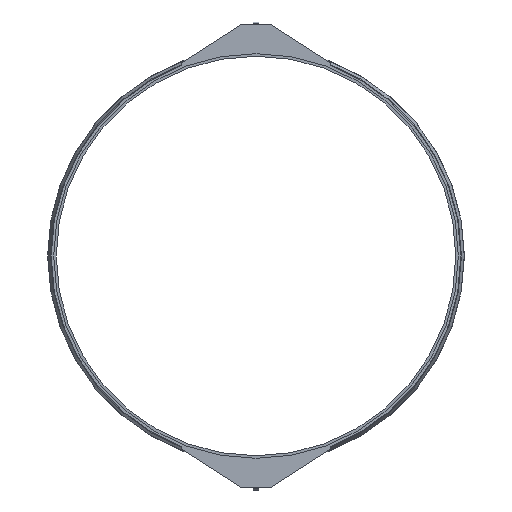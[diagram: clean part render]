
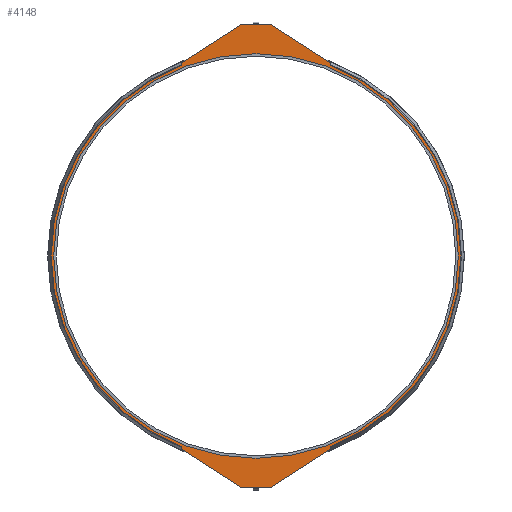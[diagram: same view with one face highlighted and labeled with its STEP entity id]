
A CAD part, left-side view. The second image highlights one B-rep face of the part: STEP entity #4148.
In plain terms, the highlighted planar face has unit normal (-1, 0, 0).
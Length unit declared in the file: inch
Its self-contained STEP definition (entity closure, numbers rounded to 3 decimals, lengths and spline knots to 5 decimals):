
#126=FACE_BOUND('',#718,.T.);
#268=PLANE('',#4523);
#479=FACE_OUTER_BOUND('',#717,.T.);
#717=EDGE_LOOP('',(#3664,#3665,#3666,#3667,#3668,#3669,#3670,#3671,#3672,
#3673,#3674,#3675,#3676,#3677,#3678,#3679,#3680,#3681,#3682,#3683));
#718=EDGE_LOOP('',(#3684,#3685));
#846=LINE('',#5992,#1235);
#849=LINE('',#6000,#1238);
#853=LINE('',#6009,#1242);
#856=LINE('',#6017,#1245);
#857=LINE('',#6020,#1246);
#1049=LINE('',#6769,#1438);
#1053=LINE('',#6778,#1442);
#1056=LINE('',#6786,#1445);
#1059=LINE('',#6793,#1448);
#1061=LINE('',#6797,#1450);
#1235=VECTOR('',#4846,0.3937);
#1238=VECTOR('',#4855,0.3937);
#1242=VECTOR('',#4865,0.3937);
#1245=VECTOR('',#4874,0.3937);
#1246=VECTOR('',#4877,0.3937);
#1438=VECTOR('',#5381,0.3937);
#1442=VECTOR('',#5391,0.3937);
#1445=VECTOR('',#5400,0.3937);
#1448=VECTOR('',#5409,0.3937);
#1450=VECTOR('',#5413,0.3937);
#1524=CIRCLE('',#4257,0.063);
#1525=CIRCLE('',#4260,0.125);
#1526=CIRCLE('',#4263,0.125);
#1527=CIRCLE('',#4266,0.063);
#1530=CIRCLE('',#4272,30.375);
#1583=CIRCLE('',#4423,0.063);
#1584=CIRCLE('',#4426,0.125);
#1585=CIRCLE('',#4429,0.125);
#1586=CIRCLE('',#4432,0.063);
#1596=CIRCLE('',#4463,30.375);
#1639=CIRCLE('',#4521,30.);
#1640=CIRCLE('',#4522,30.);
#1748=VERTEX_POINT('',#5984);
#1749=VERTEX_POINT('',#5986);
#1750=VERTEX_POINT('',#5990);
#1751=VERTEX_POINT('',#5994);
#1752=VERTEX_POINT('',#5998);
#1753=VERTEX_POINT('',#6003);
#1754=VERTEX_POINT('',#6007);
#1755=VERTEX_POINT('',#6011);
#1756=VERTEX_POINT('',#6015);
#1757=VERTEX_POINT('',#6019);
#1762=VERTEX_POINT('',#6031);
#1940=VERTEX_POINT('',#6762);
#1941=VERTEX_POINT('',#6764);
#1942=VERTEX_POINT('',#6768);
#1943=VERTEX_POINT('',#6772);
#1944=VERTEX_POINT('',#6777);
#1945=VERTEX_POINT('',#6781);
#1946=VERTEX_POINT('',#6785);
#1947=VERTEX_POINT('',#6789);
#1948=VERTEX_POINT('',#6795);
#2013=VERTEX_POINT('',#6993);
#2014=VERTEX_POINT('',#6995);
#2167=EDGE_CURVE('',#1748,#1749,#1524,.T.);
#2170=EDGE_CURVE('',#1750,#1748,#846,.T.);
#2172=EDGE_CURVE('',#1751,#1750,#1525,.T.);
#2174=EDGE_CURVE('',#1752,#1751,#849,.T.);
#2177=EDGE_CURVE('',#1753,#1752,#1526,.T.);
#2179=EDGE_CURVE('',#1754,#1753,#853,.T.);
#2181=EDGE_CURVE('',#1755,#1754,#1527,.T.);
#2183=EDGE_CURVE('',#1756,#1755,#856,.T.);
#2184=EDGE_CURVE('',#1749,#1757,#857,.T.);
#2191=EDGE_CURVE('',#1762,#1756,#1530,.T.);
#2454=EDGE_CURVE('',#1941,#1940,#1583,.T.);
#2456=EDGE_CURVE('',#1942,#1941,#1049,.T.);
#2458=EDGE_CURVE('',#1943,#1942,#1584,.T.);
#2461=EDGE_CURVE('',#1944,#1943,#1053,.T.);
#2463=EDGE_CURVE('',#1945,#1944,#1585,.T.);
#2465=EDGE_CURVE('',#1946,#1945,#1056,.T.);
#2467=EDGE_CURVE('',#1947,#1946,#1586,.T.);
#2469=EDGE_CURVE('',#1762,#1947,#1059,.T.);
#2471=EDGE_CURVE('',#1940,#1948,#1061,.T.);
#2520=EDGE_CURVE('',#1757,#1948,#1596,.T.);
#2570=EDGE_CURVE('',#2014,#2013,#1639,.T.);
#2571=EDGE_CURVE('',#2013,#2014,#1640,.T.);
#3664=ORIENTED_EDGE('',*,*,#2191,.F.);
#3665=ORIENTED_EDGE('',*,*,#2469,.T.);
#3666=ORIENTED_EDGE('',*,*,#2467,.T.);
#3667=ORIENTED_EDGE('',*,*,#2465,.T.);
#3668=ORIENTED_EDGE('',*,*,#2463,.T.);
#3669=ORIENTED_EDGE('',*,*,#2461,.T.);
#3670=ORIENTED_EDGE('',*,*,#2458,.T.);
#3671=ORIENTED_EDGE('',*,*,#2456,.T.);
#3672=ORIENTED_EDGE('',*,*,#2454,.T.);
#3673=ORIENTED_EDGE('',*,*,#2471,.T.);
#3674=ORIENTED_EDGE('',*,*,#2520,.F.);
#3675=ORIENTED_EDGE('',*,*,#2184,.F.);
#3676=ORIENTED_EDGE('',*,*,#2167,.F.);
#3677=ORIENTED_EDGE('',*,*,#2170,.F.);
#3678=ORIENTED_EDGE('',*,*,#2172,.F.);
#3679=ORIENTED_EDGE('',*,*,#2174,.F.);
#3680=ORIENTED_EDGE('',*,*,#2177,.F.);
#3681=ORIENTED_EDGE('',*,*,#2179,.F.);
#3682=ORIENTED_EDGE('',*,*,#2181,.F.);
#3683=ORIENTED_EDGE('',*,*,#2183,.F.);
#3684=ORIENTED_EDGE('',*,*,#2570,.T.);
#3685=ORIENTED_EDGE('',*,*,#2571,.T.);
#4148=ADVANCED_FACE('',(#479,#126),#268,.T.);
#4257=AXIS2_PLACEMENT_3D('',#5987,#4840,#4841);
#4260=AXIS2_PLACEMENT_3D('',#5996,#4850,#4851);
#4263=AXIS2_PLACEMENT_3D('',#6005,#4860,#4861);
#4266=AXIS2_PLACEMENT_3D('',#6013,#4869,#4870);
#4272=AXIS2_PLACEMENT_3D('',#6033,#4888,#4889);
#4423=AXIS2_PLACEMENT_3D('',#6765,#5376,#5377);
#4426=AXIS2_PLACEMENT_3D('',#6773,#5385,#5386);
#4429=AXIS2_PLACEMENT_3D('',#6782,#5395,#5396);
#4432=AXIS2_PLACEMENT_3D('',#6790,#5404,#5405);
#4463=AXIS2_PLACEMENT_3D('',#6894,#5509,#5510);
#4521=AXIS2_PLACEMENT_3D('',#6996,#5632,#5633);
#4522=AXIS2_PLACEMENT_3D('',#6997,#5634,#5635);
#4523=AXIS2_PLACEMENT_3D('',#6998,#5636,#5637);
#4840=DIRECTION('center_axis',(1.,0.,0.));
#4841=DIRECTION('ref_axis',(0.,-1.,0.));
#4846=DIRECTION('',(0.,0.843,0.538));
#4850=DIRECTION('center_axis',(1.,0.,0.));
#4851=DIRECTION('ref_axis',(0.,-0.538,0.843));
#4855=DIRECTION('',(0.,1.,0.));
#4860=DIRECTION('center_axis',(1.,0.,0.));
#4861=DIRECTION('ref_axis',(0.,0.,1.));
#4865=DIRECTION('',(0.,0.843,-0.538));
#4869=DIRECTION('center_axis',(1.,0.,0.));
#4870=DIRECTION('ref_axis',(0.,0.538,0.843));
#4874=DIRECTION('',(0.,0.,-1.));
#4877=DIRECTION('',(0.,0.,1.));
#4888=DIRECTION('center_axis',(1.,0.,0.));
#4889=DIRECTION('ref_axis',(0.,0.,-1.));
#5376=DIRECTION('center_axis',(-1.,0.,0.));
#5377=DIRECTION('ref_axis',(0.,-1.,0.));
#5381=DIRECTION('',(0.,0.843,-0.538));
#5385=DIRECTION('center_axis',(-1.,0.,0.));
#5386=DIRECTION('ref_axis',(0.,-0.538,-0.843));
#5391=DIRECTION('',(0.,1.,0.));
#5395=DIRECTION('center_axis',(-1.,0.,0.));
#5396=DIRECTION('ref_axis',(0.,0.,-1.));
#5400=DIRECTION('',(0.,0.843,0.538));
#5404=DIRECTION('center_axis',(-1.,0.,0.));
#5405=DIRECTION('ref_axis',(0.,0.538,-0.843));
#5409=DIRECTION('',(0.,0.,1.));
#5413=DIRECTION('',(0.,0.,-1.));
#5509=DIRECTION('center_axis',(1.,0.,0.));
#5510=DIRECTION('ref_axis',(0.,0.,-1.));
#5632=DIRECTION('center_axis',(1.,0.,0.));
#5633=DIRECTION('ref_axis',(0.,0.,-1.));
#5634=DIRECTION('center_axis',(1.,0.,0.));
#5635=DIRECTION('ref_axis',(0.,0.,-1.));
#5636=DIRECTION('center_axis',(-1.,0.,0.));
#5637=DIRECTION('ref_axis',(0.,0.,1.));
#5984=CARTESIAN_POINT('',(-6.25,10.97092,-28.70684));
#5986=CARTESIAN_POINT('',(-6.25,11.,-28.65375));
#5987=CARTESIAN_POINT('Origin',(-6.25,10.937,-28.65375));
#5990=CARTESIAN_POINT('',(-6.25,2.13078,-34.35533));
#5992=CARTESIAN_POINT('',(-6.25,2.13078,-34.35533));
#5994=CARTESIAN_POINT('',(-6.25,2.06347,-34.375));
#5996=CARTESIAN_POINT('Origin',(-6.25,2.06347,-34.25));
#5998=CARTESIAN_POINT('',(-6.25,-2.06347,-34.375));
#6000=CARTESIAN_POINT('',(-6.25,0.,-34.375));
#6003=CARTESIAN_POINT('',(-6.25,-2.13078,-34.35533));
#6005=CARTESIAN_POINT('Origin',(-6.25,-2.06347,-34.25));
#6007=CARTESIAN_POINT('',(-6.25,-10.97092,-28.70684));
#6009=CARTESIAN_POINT('',(-6.25,-10.97092,-28.70684));
#6011=CARTESIAN_POINT('',(-6.25,-11.,-28.65375));
#6013=CARTESIAN_POINT('Origin',(-6.25,-10.937,-28.65375));
#6015=CARTESIAN_POINT('',(-6.25,-11.,-28.31326));
#6017=CARTESIAN_POINT('',(-6.25,-11.,-28.31326));
#6019=CARTESIAN_POINT('',(-6.25,11.,-28.31326));
#6020=CARTESIAN_POINT('',(-6.25,11.,-28.65375));
#6031=CARTESIAN_POINT('',(-6.25,-11.,28.31326));
#6033=CARTESIAN_POINT('Origin',(-6.25,0.,0.));
#6762=CARTESIAN_POINT('',(-6.25,11.,28.65375));
#6764=CARTESIAN_POINT('',(-6.25,10.97092,28.70684));
#6765=CARTESIAN_POINT('Origin',(-6.25,10.937,28.65375));
#6768=CARTESIAN_POINT('',(-6.25,2.13078,34.35533));
#6769=CARTESIAN_POINT('',(-6.25,2.13078,34.35533));
#6772=CARTESIAN_POINT('',(-6.25,2.06347,34.375));
#6773=CARTESIAN_POINT('Origin',(-6.25,2.06347,34.25));
#6777=CARTESIAN_POINT('',(-6.25,-2.06347,34.375));
#6778=CARTESIAN_POINT('',(-6.25,0.,34.375));
#6781=CARTESIAN_POINT('',(-6.25,-2.13078,34.35533));
#6782=CARTESIAN_POINT('Origin',(-6.25,-2.06347,34.25));
#6785=CARTESIAN_POINT('',(-6.25,-10.97092,28.70684));
#6786=CARTESIAN_POINT('',(-6.25,-10.97092,28.70684));
#6789=CARTESIAN_POINT('',(-6.25,-11.,28.65375));
#6790=CARTESIAN_POINT('Origin',(-6.25,-10.937,28.65375));
#6793=CARTESIAN_POINT('',(-6.25,-11.,28.31326));
#6795=CARTESIAN_POINT('',(-6.25,11.,28.31326));
#6797=CARTESIAN_POINT('',(-6.25,11.,28.65375));
#6894=CARTESIAN_POINT('Origin',(-6.25,0.,0.));
#6993=CARTESIAN_POINT('',(-6.25,-30.,0.));
#6995=CARTESIAN_POINT('',(-6.25,30.,0.));
#6996=CARTESIAN_POINT('Origin',(-6.25,0.,0.));
#6997=CARTESIAN_POINT('Origin',(-6.25,0.,0.));
#6998=CARTESIAN_POINT('Origin',(-6.25,30.375,0.));
